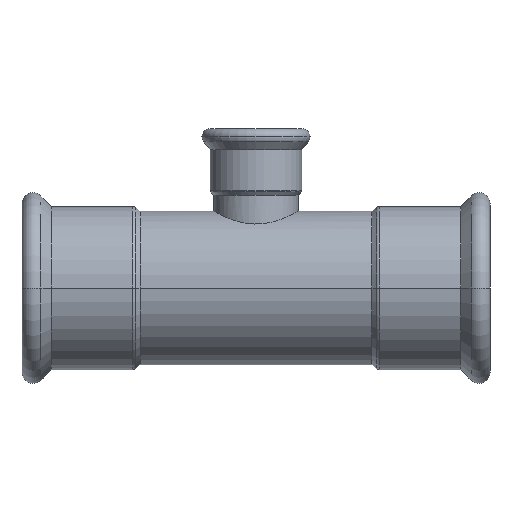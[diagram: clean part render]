
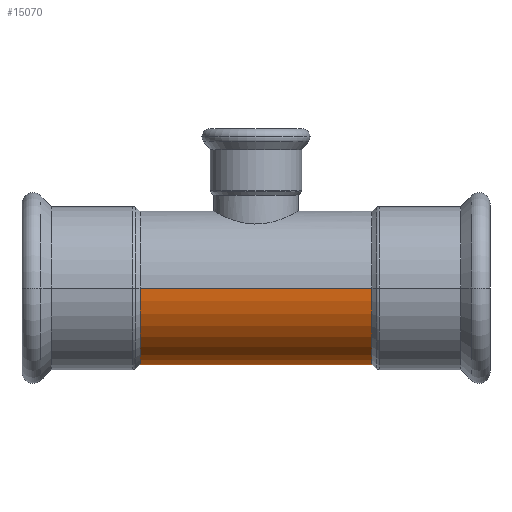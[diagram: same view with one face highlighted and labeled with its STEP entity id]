
A CAD part, front view. The second image highlights one B-rep face of the part: STEP entity #15070.
In plain terms, the highlighted cylindrical face has radius 38.05 mm (diameter 76.1 mm), a partial arc.
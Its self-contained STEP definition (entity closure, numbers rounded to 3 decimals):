
#2300=CARTESIAN_POINT('',(4.5,-38.05,0.));
#2310=VERTEX_POINT('',#2300);
#2490=CARTESIAN_POINT('',(4.5,38.05,0.));
#2500=VERTEX_POINT('',#2490);
#2530=CARTESIAN_POINT('',(4.5,0.,0.));
#2540=DIRECTION('',(1.,0.,0.));
#2550=DIRECTION('',(0.,1.,0.));
#2560=AXIS2_PLACEMENT_3D('',#2530,#2540,#2550);
#2570=CIRCLE('',#2560,38.05);
#2580=EDGE_CURVE('',#2310,#2500,#2570,.T.);
#14760=CARTESIAN_POINT('',(4.5,0.,0.));
#14770=DIRECTION('',(1.,0.,0.));
#14780=DIRECTION('',(0.,1.,0.));
#14790=AXIS2_PLACEMENT_3D('',#14760,#14770,#14780);
#14800=CYLINDRICAL_SURFACE('',#14790,38.05);
#14810=CARTESIAN_POINT('',(4.5,-38.05,0.));
#14820=DIRECTION('',(1.,0.,0.));
#14830=VECTOR('',#14820,1.);
#14840=LINE('',#14810,#14830);
#14850=CARTESIAN_POINT('',(-110.5,-38.05,0.));
#14860=VERTEX_POINT('',#14850);
#14870=EDGE_CURVE('',#14860,#2310,#14840,.T.);
#14880=ORIENTED_EDGE('',*,*,#14870,.F.);
#14890=ORIENTED_EDGE('',*,*,#2580,.F.);
#14900=CARTESIAN_POINT('',(4.5,38.05,0.));
#14910=DIRECTION('',(1.,0.,0.));
#14920=VECTOR('',#14910,1.);
#14930=LINE('',#14900,#14920);
#14940=CARTESIAN_POINT('',(-110.5,38.05,0.));
#14950=VERTEX_POINT('',#14940);
#14960=EDGE_CURVE('',#14950,#2500,#14930,.T.);
#14970=ORIENTED_EDGE('',*,*,#14960,.T.);
#14980=CARTESIAN_POINT('',(-110.5,0.,0.));
#14990=DIRECTION('',(1.,0.,0.));
#15000=DIRECTION('',(0.,1.,0.));
#15010=AXIS2_PLACEMENT_3D('',#14980,#14990,#15000);
#15020=CIRCLE('',#15010,38.05);
#15030=EDGE_CURVE('',#14860,#14950,#15020,.T.);
#15040=ORIENTED_EDGE('',*,*,#15030,.T.);
#15050=EDGE_LOOP('',(#15040,#14970,#14890,#14880));
#15060=FACE_OUTER_BOUND('',#15050,.T.);
#15070=ADVANCED_FACE('',(#15060),#14800,.T.);
